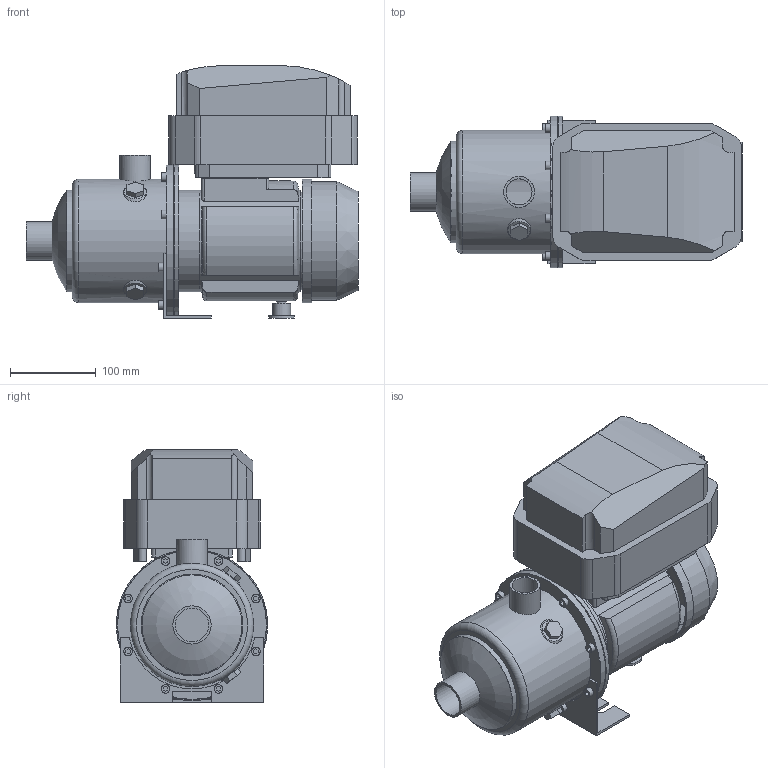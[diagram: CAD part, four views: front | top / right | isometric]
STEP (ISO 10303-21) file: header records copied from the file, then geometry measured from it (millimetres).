
FILE_DESCRIPTION(/* description */ ('Unknown'),/* implementation_level */ '2;1');
FILE_NAME(/* name */ 'MH 3 [4] T6 IE3 DTm',/* time_stamp */ '2026-07-10T15:09:49+02:00',/* author */ ('Unknown'),/* organization */ ('Unknown'),/* preprocessor_version */ 'ST-DEVELOPER v20',/* originating_system */ 'Solid Edge',/* authorisation */ 'Unknown');
FILE_SCHEMA (('AUTOMOTIVE_DESIGN {1 0 10303 214 3 1 1}'));
Length unit declared in the file: millimetre
Products named in the file (9): MH 3 [4] T6 IE3 DTm; Flangia motore Tonda M71; Corpo MH 3-5 [4]; Motore MEC 71 - T - VFD; carcassa MEC 71; Copriventola MEC 71; VFD sempl; Piedino MEC 71 int.90; Staffa 3-5-9 int.90
Assembly tree (8 placements, depth 3):
  MH 3 [4] T6 IE3 DTm
    Flangia motore Tonda M71
    Corpo MH 3-5 [4]
    Motore MEC 71 - T - VFD
      carcassa MEC 71
      Copriventola MEC 71
      VFD sempl
    Piedino MEC 71 int.90
    Staffa 3-5-9 int.90
Bounding box: 386.6 x 176.5 x 294 mm (x, y, z)
Volume: 4953721.2 mm3; surface area: 612299.6 mm2
Topology: 7 solids, 7 shells, 300 faces, 726 edges, 487 vertices
Faces by surface type: plane 196, cylinder 76, cone 17, torus 9, sphere 2
Full cylindrical faces by diameter (mm): 7 x4, 10 x9, 21 x1, 30 x1, 30.291 x1, 36 x1, 38.952 x1, 44.5 x1, 110 x1, 114 x3, 116.1 x1, 118 x2, 118.5 x1, 133 x1, 138 x1, 139 x1, 141.1 x1, 143.5 x1, 144 x1, 173.5 x1, 174.1 x1, 176.5 x2
Entity records: 9753 total; most frequent: CARTESIAN_POINT 1734, DIRECTION 1404, ORIENTED_EDGE 1302, EDGE_CURVE 651, AXIS2_PLACEMENT_3D 488, VERTEX_POINT 462, LINE 428, VECTOR 428
